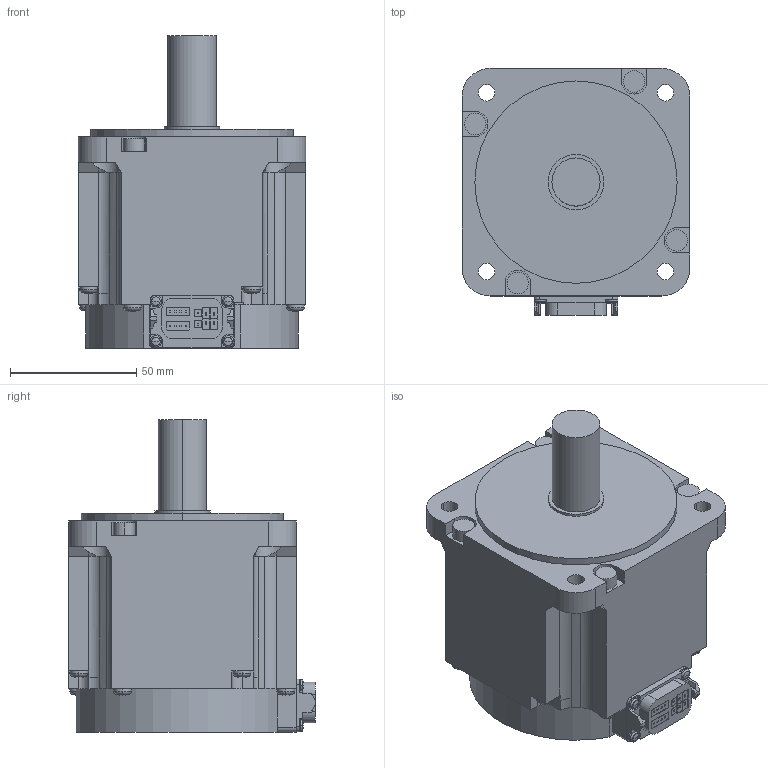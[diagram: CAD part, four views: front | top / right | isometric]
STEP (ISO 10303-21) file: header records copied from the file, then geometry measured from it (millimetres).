
FILE_DESCRIPTION((''),'2;1');
FILE_NAME('HK-KT7M3UW_-_ASM','2019-01-15T',('XE90682'),(''),'CREO PARAMETRIC BY PTC INC, 2016380','CREO PARAMETRIC BY PTC INC, 2016380','');
FILE_SCHEMA(('CONFIG_CONTROL_DESIGN'));
Length unit declared in the file: millimetre
Products named in the file (1): HK-KT7M3UW_-_ASM
Bounding box: 90 x 97.65 x 123.5 mm (x, y, z)
Volume: 600185.4 mm3; surface area: 48982.5 mm2
Topology: 1 solids, 1 shells, 405 faces, 1052 edges, 668 vertices
Faces by surface type: plane 228, cylinder 121, torus 24, sphere 24, cone 8
Entity records: 12347 total; most frequent: CARTESIAN_POINT 2229, DIRECTION 2153, ORIENTED_EDGE 2056, EDGE_CURVE 1028, AXIS2_PLACEMENT_3D 736, VECTOR 681, LINE 681, VERTEX_POINT 668
